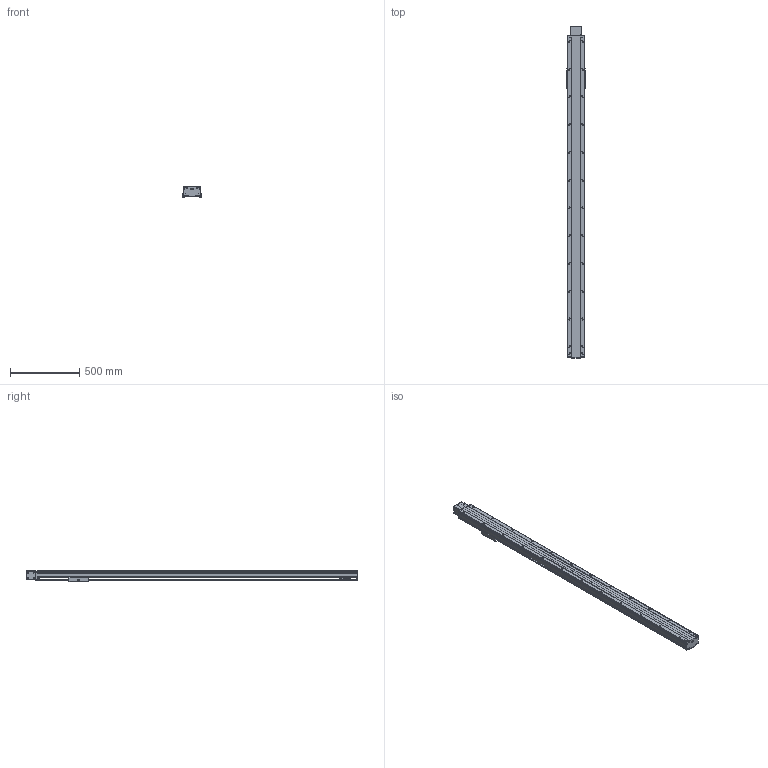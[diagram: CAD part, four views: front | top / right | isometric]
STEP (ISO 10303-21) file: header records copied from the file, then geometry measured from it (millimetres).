
FILE_DESCRIPTION(/* description */ (''),/* implementation_level */ '2;1');
FILE_NAME(/* name */ 'TKB120-FR-2000_asm1_stp.stp',/* time_stamp */ '2016-06-28T16:16:22+08:00',/* author */ (''),/* organization */ (''),/* preprocessor_version */ 'ST-DEVELOPER v15',/* originating_system */ 'SIEMENS PLM Software NX 8.5',/* authorisation */ '');
FILE_SCHEMA (('AUTOMOTIVE_DESIGN { 1 0 10303 214 3 1 1 1 }'));
Length unit declared in the file: millimetre
Products named in the file (3): 200-2; 200-1; TKB120-FR-2000_asm1_stp
Assembly tree (2 placements, depth 2):
  TKB120-FR-2000_asm1_stp
    200-1
    200-2
Bounding box: 134 x 2391 x 80 mm (x, y, z)
Volume: 5803696.5 mm3; surface area: 2409575.7 mm2
Topology: 2 solids, 3 shells, 879 faces, 2575 edges, 1687 vertices
Faces by surface type: cylinder 443, plane 394, cone 42
Full cylindrical faces by diameter (mm): 2.5 x4, 3.3 x20, 4.2 x4, 4.5 x24, 5 x36, 5.5 x26, 6.6 x6, 6.8 x4, 7.5 x4, 8 x12, 9 x6, 9.75 x52, 10.5 x4, 11 x2, 12 x4, 14 x2, 17 x2, 35 x2, 40 x3, 50 x2, 52 x1
Entity records: 29076 total; most frequent: CARTESIAN_POINT 6417, DIRECTION 4735, ORIENTED_EDGE 4380, EDGE_CURVE 2190, AXIS2_PLACEMENT_3D 1814, VERTEX_POINT 1606, EDGE_LOOP 1362, LINE 1107
